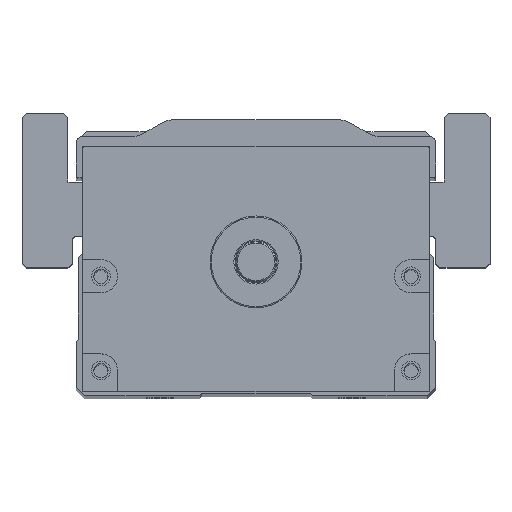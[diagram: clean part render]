
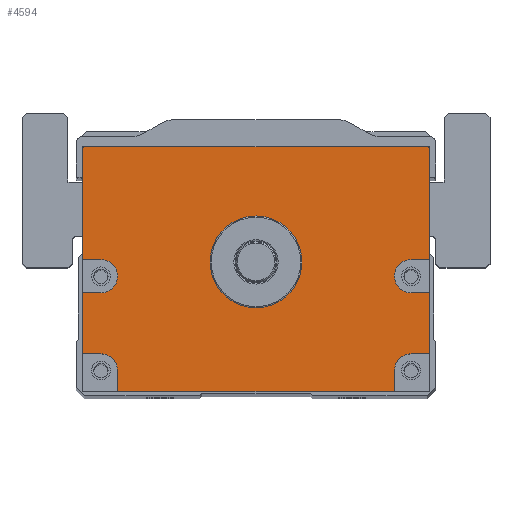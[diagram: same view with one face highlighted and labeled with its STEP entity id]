
A CAD part, top view. The second image highlights one B-rep face of the part: STEP entity #4594.
In plain terms, the highlighted planar face has unit normal (0, 0, 1).
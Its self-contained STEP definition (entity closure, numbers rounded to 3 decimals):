
#4594=ADVANCED_FACE('',(#7174,#7175),#5085,.T.);
#5085=PLANE('',#15576);
#5786=LINE('',#22483,#6628);
#5788=LINE('',#22491,#6630);
#5789=LINE('',#22494,#6631);
#5790=LINE('',#22496,#6632);
#5791=LINE('',#22500,#6633);
#5792=LINE('',#22502,#6634);
#5793=LINE('',#22503,#6635);
#5794=LINE('',#22505,#6636);
#5795=LINE('',#22509,#6637);
#5796=LINE('',#22511,#6638);
#5797=LINE('',#22513,#6639);
#5798=LINE('',#22517,#6640);
#5799=LINE('',#22519,#6641);
#5800=LINE('',#22521,#6642);
#6628=VECTOR('',#18100,1.);
#6630=VECTOR('',#18108,1.);
#6631=VECTOR('',#18109,1.);
#6632=VECTOR('',#18110,1.);
#6633=VECTOR('',#18113,1.);
#6634=VECTOR('',#18114,1.);
#6635=VECTOR('',#18115,1.);
#6636=VECTOR('',#18116,1.);
#6637=VECTOR('',#18119,1.);
#6638=VECTOR('',#18120,1.);
#6639=VECTOR('',#18121,1.);
#6640=VECTOR('',#18124,1.);
#6641=VECTOR('',#18125,1.);
#6642=VECTOR('',#18126,1.);
#7174=FACE_BOUND('',#8034,.T.);
#7175=FACE_BOUND('',#8035,.T.);
#8034=EDGE_LOOP('',(#10527,#10528,#10529,#10530,#10531,#10532,#10533,#10534,
#10535,#10536,#10537,#10538,#10539,#10540,#10541,#10542,#10543,#10544));
#8035=EDGE_LOOP('',(#10545));
#10527=ORIENTED_EDGE('',*,*,#13806,.F.);
#10528=ORIENTED_EDGE('',*,*,#13807,.T.);
#10529=ORIENTED_EDGE('',*,*,#13808,.F.);
#10530=ORIENTED_EDGE('',*,*,#13809,.F.);
#10531=ORIENTED_EDGE('',*,*,#13810,.F.);
#10532=ORIENTED_EDGE('',*,*,#13811,.T.);
#10533=ORIENTED_EDGE('',*,*,#13802,.T.);
#10534=ORIENTED_EDGE('',*,*,#13812,.T.);
#10535=ORIENTED_EDGE('',*,*,#13813,.F.);
#10536=ORIENTED_EDGE('',*,*,#13814,.F.);
#10537=ORIENTED_EDGE('',*,*,#13815,.F.);
#10538=ORIENTED_EDGE('',*,*,#13816,.T.);
#10539=ORIENTED_EDGE('',*,*,#13817,.F.);
#10540=ORIENTED_EDGE('',*,*,#13818,.F.);
#10541=ORIENTED_EDGE('',*,*,#13819,.F.);
#10542=ORIENTED_EDGE('',*,*,#13820,.T.);
#10543=ORIENTED_EDGE('',*,*,#13821,.F.);
#10544=ORIENTED_EDGE('',*,*,#13822,.F.);
#10545=ORIENTED_EDGE('',*,*,#13788,.T.);
#12333=VERTEX_POINT('',#22454);
#12346=VERTEX_POINT('',#22482);
#12347=VERTEX_POINT('',#22484);
#12350=VERTEX_POINT('',#22492);
#12351=VERTEX_POINT('',#22493);
#12352=VERTEX_POINT('',#22495);
#12353=VERTEX_POINT('',#22497);
#12354=VERTEX_POINT('',#22499);
#12355=VERTEX_POINT('',#22501);
#12356=VERTEX_POINT('',#22504);
#12357=VERTEX_POINT('',#22506);
#12358=VERTEX_POINT('',#22508);
#12359=VERTEX_POINT('',#22510);
#12360=VERTEX_POINT('',#22512);
#12361=VERTEX_POINT('',#22514);
#12362=VERTEX_POINT('',#22516);
#12363=VERTEX_POINT('',#22518);
#12364=VERTEX_POINT('',#22520);
#12365=VERTEX_POINT('',#22522);
#13788=EDGE_CURVE('',#12333,#12333,#14628,.T.);
#13802=EDGE_CURVE('',#12347,#12346,#5786,.T.);
#13806=EDGE_CURVE('',#12350,#12351,#5788,.T.);
#13807=EDGE_CURVE('',#12350,#12352,#5789,.T.);
#13808=EDGE_CURVE('',#12353,#12352,#5790,.T.);
#13809=EDGE_CURVE('',#12354,#12353,#14639,.T.);
#13810=EDGE_CURVE('',#12355,#12354,#5791,.T.);
#13811=EDGE_CURVE('',#12355,#12347,#5792,.T.);
#13812=EDGE_CURVE('',#12346,#12356,#5793,.T.);
#13813=EDGE_CURVE('',#12357,#12356,#5794,.T.);
#13814=EDGE_CURVE('',#12358,#12357,#14640,.T.);
#13815=EDGE_CURVE('',#12359,#12358,#5795,.T.);
#13816=EDGE_CURVE('',#12359,#12360,#5796,.T.);
#13817=EDGE_CURVE('',#12361,#12360,#5797,.T.);
#13818=EDGE_CURVE('',#12362,#12361,#14641,.T.);
#13819=EDGE_CURVE('',#12363,#12362,#5798,.T.);
#13820=EDGE_CURVE('',#12363,#12364,#5799,.T.);
#13821=EDGE_CURVE('',#12365,#12364,#5800,.T.);
#13822=EDGE_CURVE('',#12351,#12365,#14642,.T.);
#14628=CIRCLE('',#15558,11.);
#14639=CIRCLE('',#15572,4.);
#14640=CIRCLE('',#15573,4.);
#14641=CIRCLE('',#15574,4.);
#14642=CIRCLE('',#15575,4.);
#15558=AXIS2_PLACEMENT_3D('',#22453,#18073,#18074);
#15572=AXIS2_PLACEMENT_3D('',#22498,#18111,#18112);
#15573=AXIS2_PLACEMENT_3D('',#22507,#18117,#18118);
#15574=AXIS2_PLACEMENT_3D('',#22515,#18122,#18123);
#15575=AXIS2_PLACEMENT_3D('',#22523,#18127,#18128);
#15576=AXIS2_PLACEMENT_3D('',#22524,#18129,#18130);
#18073=DIRECTION('',(0.,0.,-1.));
#18074=DIRECTION('',(1.,0.,0.));
#18100=DIRECTION('',(-1.,0.,0.));
#18108=DIRECTION('',(-1.,0.,0.));
#18109=DIRECTION('',(0.,1.,0.));
#18110=DIRECTION('',(1.,0.,0.));
#18111=DIRECTION('',(0.,0.,1.));
#18112=DIRECTION('',(1.,0.,0.));
#18113=DIRECTION('',(-1.,0.,0.));
#18114=DIRECTION('',(0.,1.,0.));
#18115=DIRECTION('',(0.,-1.,0.));
#18116=DIRECTION('',(-1.,0.,0.));
#18117=DIRECTION('',(0.,0.,1.));
#18118=DIRECTION('',(1.,0.,0.));
#18119=DIRECTION('',(1.,0.,0.));
#18120=DIRECTION('',(0.,-1.,0.));
#18121=DIRECTION('',(-1.,0.,0.));
#18122=DIRECTION('',(0.,0.,1.));
#18123=DIRECTION('',(1.,0.,0.));
#18124=DIRECTION('',(0.,1.,0.));
#18125=DIRECTION('',(1.,0.,0.));
#18126=DIRECTION('',(0.,-1.,0.));
#18127=DIRECTION('',(0.,0.,1.));
#18128=DIRECTION('',(1.,0.,0.));
#18129=DIRECTION('',(0.,0.,1.));
#18130=DIRECTION('',(1.,0.,0.));
#22453=CARTESIAN_POINT('',(600.,0.,282.5));
#22454=CARTESIAN_POINT('',(611.,0.,282.5));
#22482=CARTESIAN_POINT('',(558.5,27.5,282.5));
#22483=CARTESIAN_POINT('',(641.5,27.5,282.5));
#22484=CARTESIAN_POINT('',(641.5,27.5,282.5));
#22491=CARTESIAN_POINT('',(641.5,-22.,282.5));
#22492=CARTESIAN_POINT('',(641.5,-22.,282.5));
#22493=CARTESIAN_POINT('',(637.115,-22.,282.5));
#22494=CARTESIAN_POINT('',(641.5,-31.,282.5));
#22495=CARTESIAN_POINT('',(641.5,-7.431,282.5));
#22496=CARTESIAN_POINT('',(641.5,-7.431,282.5));
#22497=CARTESIAN_POINT('',(637.115,-7.431,282.5));
#22498=CARTESIAN_POINT('',(637.115,-3.431,282.5));
#22499=CARTESIAN_POINT('',(637.115,0.569,282.5));
#22500=CARTESIAN_POINT('',(641.5,0.569,282.5));
#22501=CARTESIAN_POINT('',(641.5,0.569,282.5));
#22502=CARTESIAN_POINT('',(641.5,-31.,282.5));
#22503=CARTESIAN_POINT('',(558.5,27.5,282.5));
#22504=CARTESIAN_POINT('',(558.5,0.569,282.5));
#22505=CARTESIAN_POINT('',(641.5,0.569,282.5));
#22506=CARTESIAN_POINT('',(562.885,0.569,282.5));
#22507=CARTESIAN_POINT('',(562.885,-3.431,282.5));
#22508=CARTESIAN_POINT('',(562.885,-7.431,282.5));
#22509=CARTESIAN_POINT('',(641.5,-7.431,282.5));
#22510=CARTESIAN_POINT('',(558.5,-7.431,282.5));
#22511=CARTESIAN_POINT('',(558.5,27.5,282.5));
#22512=CARTESIAN_POINT('',(558.5,-22.,282.5));
#22513=CARTESIAN_POINT('',(641.5,-22.,282.5));
#22514=CARTESIAN_POINT('',(562.885,-22.,282.5));
#22515=CARTESIAN_POINT('',(562.885,-26.,282.5));
#22516=CARTESIAN_POINT('',(566.885,-26.,282.5));
#22517=CARTESIAN_POINT('',(566.885,-31.,282.5));
#22518=CARTESIAN_POINT('',(566.885,-31.,282.5));
#22519=CARTESIAN_POINT('',(558.5,-31.,282.5));
#22520=CARTESIAN_POINT('',(633.115,-31.,282.5));
#22521=CARTESIAN_POINT('',(633.115,-31.,282.5));
#22522=CARTESIAN_POINT('',(633.115,-26.,282.5));
#22523=CARTESIAN_POINT('',(637.115,-26.,282.5));
#22524=CARTESIAN_POINT('',(641.5,-31.,282.5));
